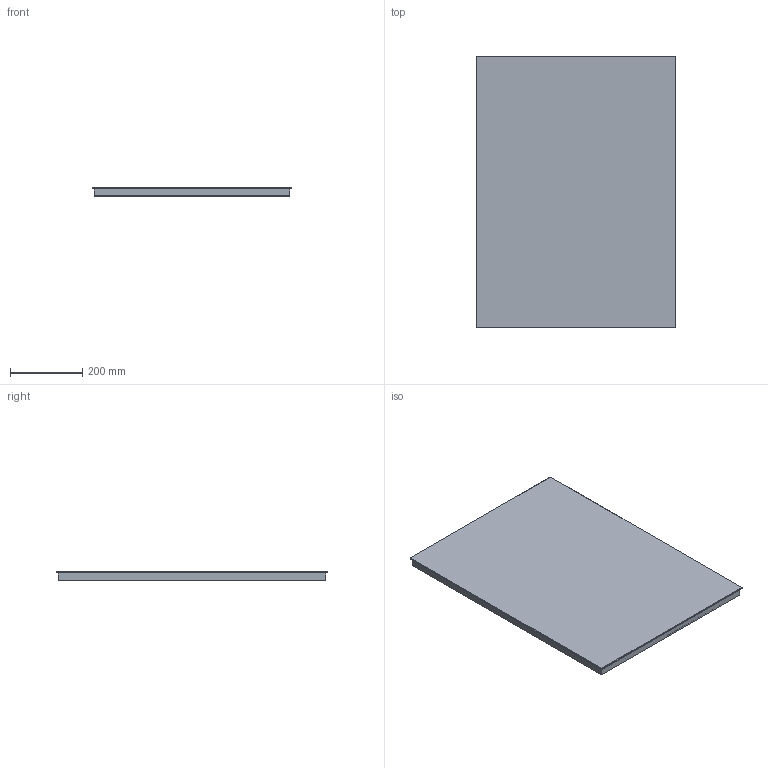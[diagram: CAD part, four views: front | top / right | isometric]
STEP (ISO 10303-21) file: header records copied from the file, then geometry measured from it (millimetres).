
FILE_DESCRIPTION((''),'2;1');
FILE_NAME('C:\AutodeskVault\AreaLavoro\Progetti\SoVeT Italia\3. Specchi_Mirrors\Boston\Web file\Boston Web\P5061.stp','2012-07-19T15:51:22',('Gianluca'),('So.Ve.T. s.r.l.'),'Autodesk Inventor 2013','Autodesk Inventor 2013','IL PROGETTO E'' DI ESCLUSIVA PROPRIETA'' DELLA SO.VE.T. srl. E'' VIETATA OGNI RIPRODUZIONE TOTALE O PARZIALE E QUALSIASI UTILIZZO NON AUTORIZZATO. ');
FILE_SCHEMA(('AUTOMOTIVE_DESIGN { 1 0 10303 214 1 1 1 1 }'));
Length unit declared in the file: millimetre
Products named in the file (1): P5061 Contorno semplificato
Bounding box: 550 x 750 x 26.01 mm (x, y, z)
Volume: 4436894.7 mm3; surface area: 972609.1 mm2
Topology: 1 solids, 1 shells, 63 faces, 146 edges, 88 vertices
Faces by surface type: plane 45, cylinder 10, cone 8
Entity records: 1854 total; most frequent: DIRECTION 302, CARTESIAN_POINT 298, ORIENTED_EDGE 292, EDGE_CURVE 146, VECTOR 118, LINE 118, AXIS2_PLACEMENT_3D 92, VERTEX_POINT 88
